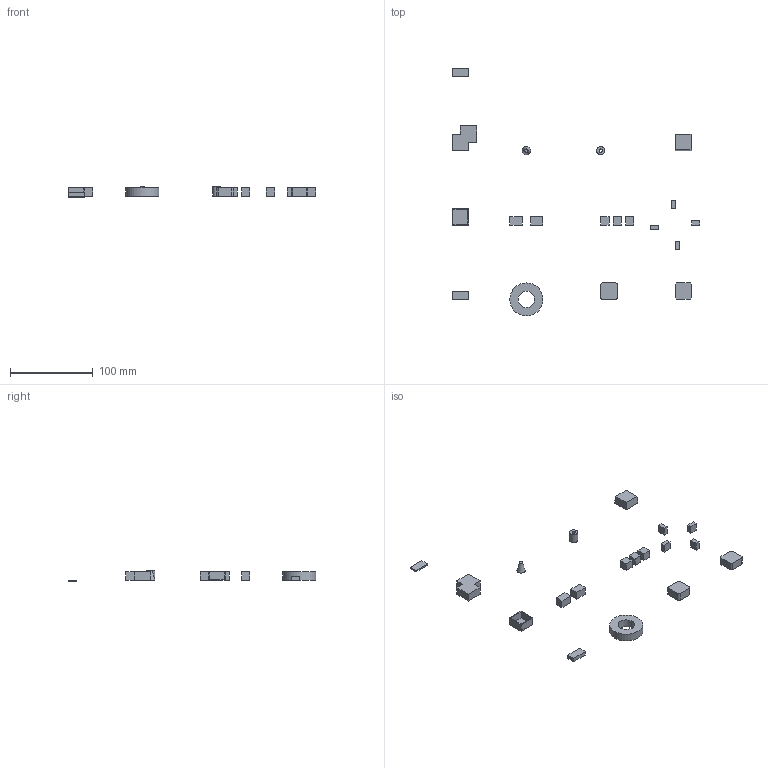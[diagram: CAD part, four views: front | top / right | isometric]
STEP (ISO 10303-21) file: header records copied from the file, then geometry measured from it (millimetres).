
FILE_DESCRIPTION(('Open CASCADE Model'),'2;1');
FILE_NAME('Open CASCADE Shape Model','2026-10-08T18:44:23',('Author'),( 'Open CASCADE'),'Open CASCADE STEP processor 8.0','Open CASCADE 8.0' ,'Unknown');
FILE_SCHEMA(('AUTOMOTIVE_DESIGN { 1 0 10303 214 1 1 1 1 }'));
Length unit declared in the file: millimetre
Products named in the file (19): Open CASCADE STEP translator 8.0 1; Open CASCADE STEP translator 8.0 2; Open CASCADE STEP translator 8.0 3; Open CASCADE STEP translator 8.0 4; Open CASCADE STEP translator 8.0 5; Open CASCADE STEP translator 8.0 6; Open CASCADE STEP translator 8.0 7; Open CASCADE STEP translator 8.0 8; Open CASCADE STEP translator 8.0 9; Open CASCADE STEP translator 8.0 10; Open CASCADE STEP translator 8.0 11; Open CASCADE STEP translator 8.0 12; Open CASCADE STEP translator 8.0 13; Open CASCADE STEP translator 8.0 14; Open CASCADE STEP translator 8.0 15; Open CASCADE STEP translator 8.0 16; Open CASCADE STEP translator 8.0 17; Open CASCADE STEP translator 8.0 18; Open CASCADE STEP translator 8.0 19
Bounding box: 300 x 300 x 14 mm (x, y, z)
Volume: 39736.5 mm3; surface area: 20457.7 mm2
Topology: 19 solids, 19 shells, 124 faces, 255 edges, 170 vertices
Faces by surface type: plane 115, cylinder 8, cone 1
Full cylindrical faces by diameter (mm): 4 x1, 10 x1, 20 x1, 40 x1
Entity records: 6697 total; most frequent: CARTESIAN_POINT 1075, DIRECTION 1028, LINE 726, VECTOR 726, ORIENTED_EDGE 510, PCURVE 510, DEFINITIONAL_REPRESENTATION 510, EDGE_CURVE 255
